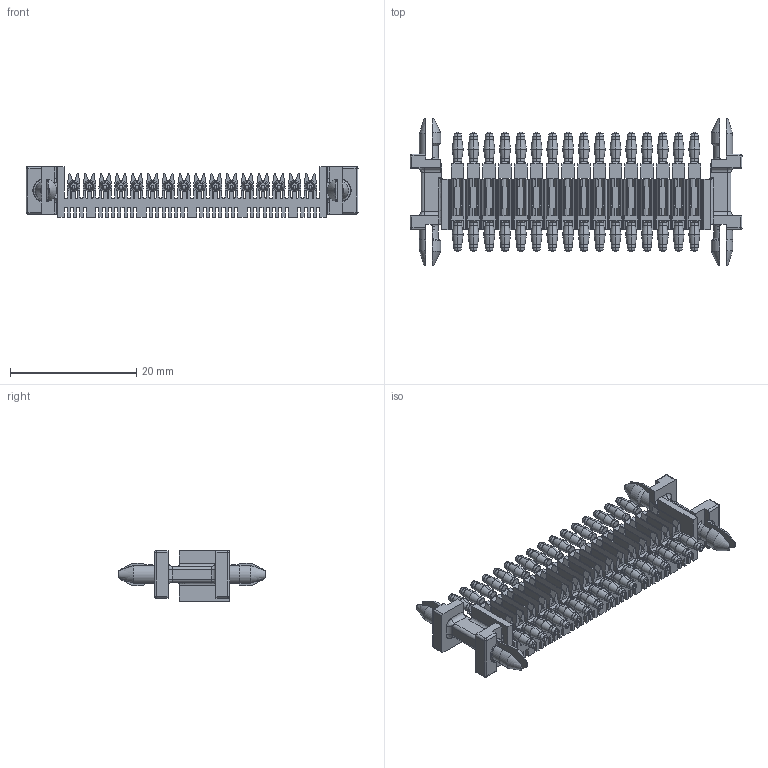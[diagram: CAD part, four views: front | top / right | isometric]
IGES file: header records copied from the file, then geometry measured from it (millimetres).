
Start section: SolidWorks IGES file using analytic representation for surfaces
Global section: file name: C:\Users\08778\Desktop\ISFIT_Webカタログ\16P\S1957_製品規格_客先図面\ASSY.IGS; native system: SolidWorks 2017; preprocessor: SolidWorks 2017; author: 08778; date: 200527.092730; units: millimetre
Bounding box: 52.6 x 23.4 x 8 mm (x, y, z)
Surface area: 6222.6 mm2 (no closed solid volume)
Topology: 0 solids, 0 shells, 2453 faces, 20296 edges, 20286 vertices
Faces by surface type: bspline 1813, revolution 640
